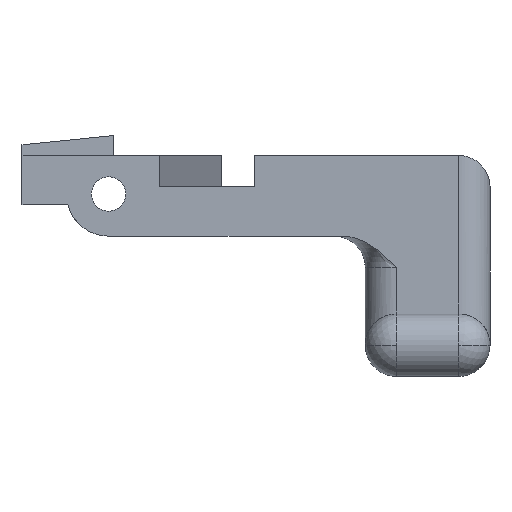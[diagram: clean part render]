
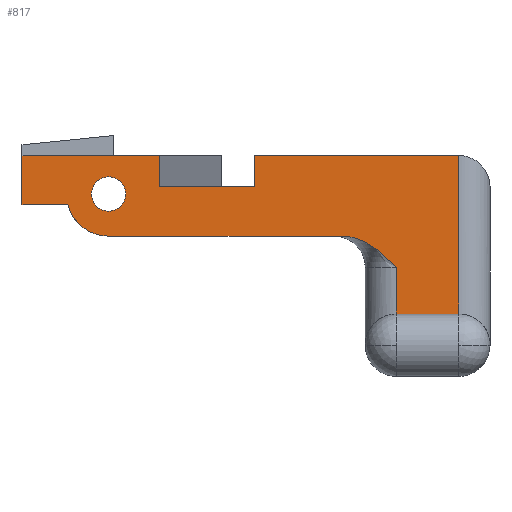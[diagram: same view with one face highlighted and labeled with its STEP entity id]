
A CAD part, front view. The second image highlights one B-rep face of the part: STEP entity #817.
In plain terms, the highlighted planar face has unit normal (0, -1, 0).
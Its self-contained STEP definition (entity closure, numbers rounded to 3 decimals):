
#35=FACE_BOUND('',#118,.T.);
#37=B_SPLINE_CURVE_WITH_KNOTS('',3,(#1264,#1265,#1266,#1267,#1268,#1269,
#1270,#1271,#1272,#1273),.UNSPECIFIED.,.F.,.F.,(4,2,2,2,4),(0.,0.118,
0.235,0.312,0.388),.UNSPECIFIED.);
#42=PLANE('',#882);
#69=FACE_OUTER_BOUND('',#117,.T.);
#117=EDGE_LOOP('',(#573,#574,#575,#576,#577,#578,#579,#580,#581,#582,#583,
#584,#585));
#118=EDGE_LOOP('',(#586));
#164=LINE('',#1234,#246);
#168=LINE('',#1242,#250);
#171=LINE('',#1248,#253);
#174=LINE('',#1254,#256);
#175=LINE('',#1256,#257);
#176=LINE('',#1258,#258);
#177=LINE('',#1262,#259);
#178=LINE('',#1275,#260);
#179=LINE('',#1277,#261);
#180=LINE('',#1279,#262);
#181=LINE('',#1280,#263);
#246=VECTOR('',#976,10.);
#250=VECTOR('',#982,10.);
#253=VECTOR('',#987,10.);
#256=VECTOR('',#992,10.);
#257=VECTOR('',#993,10.);
#258=VECTOR('',#994,10.);
#259=VECTOR('',#997,10.);
#260=VECTOR('',#998,10.);
#261=VECTOR('',#999,10.);
#262=VECTOR('',#1000,10.);
#263=VECTOR('',#1001,10.);
#327=CIRCLE('',#877,1.1);
#329=CIRCLE('',#883,2.7);
#359=VERTEX_POINT('',#1226);
#361=VERTEX_POINT('',#1232);
#362=VERTEX_POINT('',#1233);
#365=VERTEX_POINT('',#1241);
#367=VERTEX_POINT('',#1247);
#369=VERTEX_POINT('',#1253);
#370=VERTEX_POINT('',#1255);
#371=VERTEX_POINT('',#1257);
#372=VERTEX_POINT('',#1259);
#373=VERTEX_POINT('',#1261);
#374=VERTEX_POINT('',#1263);
#375=VERTEX_POINT('',#1274);
#376=VERTEX_POINT('',#1276);
#377=VERTEX_POINT('',#1278);
#435=EDGE_CURVE('',#359,#359,#327,.T.);
#438=EDGE_CURVE('',#361,#362,#164,.T.);
#442=EDGE_CURVE('',#365,#361,#168,.T.);
#445=EDGE_CURVE('',#367,#365,#171,.T.);
#448=EDGE_CURVE('',#369,#362,#174,.T.);
#449=EDGE_CURVE('',#370,#369,#175,.T.);
#450=EDGE_CURVE('',#371,#370,#176,.T.);
#451=EDGE_CURVE('',#372,#371,#329,.T.);
#452=EDGE_CURVE('',#372,#373,#177,.T.);
#453=EDGE_CURVE('',#374,#373,#37,.T.);
#454=EDGE_CURVE('',#375,#374,#178,.T.);
#455=EDGE_CURVE('',#375,#376,#179,.T.);
#456=EDGE_CURVE('',#377,#376,#180,.T.);
#457=EDGE_CURVE('',#367,#377,#181,.T.);
#573=ORIENTED_EDGE('',*,*,#445,.T.);
#574=ORIENTED_EDGE('',*,*,#442,.T.);
#575=ORIENTED_EDGE('',*,*,#438,.T.);
#576=ORIENTED_EDGE('',*,*,#448,.F.);
#577=ORIENTED_EDGE('',*,*,#449,.F.);
#578=ORIENTED_EDGE('',*,*,#450,.F.);
#579=ORIENTED_EDGE('',*,*,#451,.F.);
#580=ORIENTED_EDGE('',*,*,#452,.T.);
#581=ORIENTED_EDGE('',*,*,#453,.F.);
#582=ORIENTED_EDGE('',*,*,#454,.F.);
#583=ORIENTED_EDGE('',*,*,#455,.T.);
#584=ORIENTED_EDGE('',*,*,#456,.F.);
#585=ORIENTED_EDGE('',*,*,#457,.F.);
#586=ORIENTED_EDGE('',*,*,#435,.T.);
#817=ADVANCED_FACE('',(#69,#35),#42,.F.);
#877=AXIS2_PLACEMENT_3D('',#1227,#969,#970);
#882=AXIS2_PLACEMENT_3D('',#1252,#990,#991);
#883=AXIS2_PLACEMENT_3D('',#1260,#995,#996);
#969=DIRECTION('center_axis',(0.,1.,0.));
#970=DIRECTION('ref_axis',(1.,0.,0.));
#976=DIRECTION('',(0.,0.,1.));
#982=DIRECTION('',(-1.,0.,0.));
#987=DIRECTION('',(0.,0.,-1.));
#990=DIRECTION('center_axis',(0.,1.,0.));
#991=DIRECTION('ref_axis',(1.,0.,0.));
#992=DIRECTION('',(1.,0.,0.));
#993=DIRECTION('',(0.,0.,1.));
#994=DIRECTION('',(-1.,0.,0.));
#995=DIRECTION('center_axis',(0.,1.,0.));
#996=DIRECTION('ref_axis',(1.,0.,0.));
#997=DIRECTION('',(1.,0.,0.));
#998=DIRECTION('',(0.,0.,1.));
#999=DIRECTION('',(1.,0.,0.));
#1000=DIRECTION('',(0.,0.,-1.));
#1001=DIRECTION('',(1.,0.,0.));
#1226=CARTESIAN_POINT('',(-1.1,0.,0.));
#1227=CARTESIAN_POINT('Origin',(0.,0.,0.));
#1232=CARTESIAN_POINT('',(3.262,0.,0.466));
#1233=CARTESIAN_POINT('',(3.262,0.,2.466));
#1234=CARTESIAN_POINT('',(3.262,0.,0.996));
#1241=CARTESIAN_POINT('',(9.378,0.,0.466));
#1242=CARTESIAN_POINT('',(10.244,0.,0.466));
#1247=CARTESIAN_POINT('',(9.378,0.,2.466));
#1248=CARTESIAN_POINT('',(9.378,0.,2.996));
#1252=CARTESIAN_POINT('Origin',(9.451,0.,1.526));
#1253=CARTESIAN_POINT('',(-5.549,0.,2.466));
#1254=CARTESIAN_POINT('',(-5.549,0.,2.466));
#1255=CARTESIAN_POINT('',(-5.549,0.,-0.694));
#1256=CARTESIAN_POINT('',(-5.549,0.,-0.694));
#1257=CARTESIAN_POINT('',(-2.609,0.,-0.694));
#1258=CARTESIAN_POINT('',(24.451,0.,-0.694));
#1259=CARTESIAN_POINT('',(0.003,0.,-2.7));
#1260=CARTESIAN_POINT('Origin',(0.,0.,0.));
#1261=CARTESIAN_POINT('',(14.987,0.,-2.7));
#1262=CARTESIAN_POINT('',(-0.006,0.,-2.7));
#1263=CARTESIAN_POINT('',(18.451,0.,-4.7));
#1264=CARTESIAN_POINT('Ctrl Pts',(18.451,0.,-4.7));
#1265=CARTESIAN_POINT('Ctrl Pts',(18.174,0.,-4.423));
#1266=CARTESIAN_POINT('Ctrl Pts',(17.869,0.,-4.117));
#1267=CARTESIAN_POINT('Ctrl Pts',(17.221,0.,-3.558));
#1268=CARTESIAN_POINT('Ctrl Pts',(16.875,0.,-3.306));
#1269=CARTESIAN_POINT('Ctrl Pts',(16.306,0.,-3.));
#1270=CARTESIAN_POINT('Ctrl Pts',(16.049,0.,
-2.889));
#1271=CARTESIAN_POINT('Ctrl Pts',(15.517,0.,
-2.739));
#1272=CARTESIAN_POINT('Ctrl Pts',(15.241,0.,-2.7));
#1273=CARTESIAN_POINT('Ctrl Pts',(14.987,0.,-2.7));
#1274=CARTESIAN_POINT('',(18.451,0.,-7.694));
#1275=CARTESIAN_POINT('',(18.451,0.,-3.084));
#1276=CARTESIAN_POINT('',(22.451,0.,-7.694));
#1277=CARTESIAN_POINT('',(16.451,0.,-7.694));
#1278=CARTESIAN_POINT('',(22.451,0.,2.466));
#1279=CARTESIAN_POINT('',(22.451,0.,1.996));
#1280=CARTESIAN_POINT('',(-5.549,0.,2.466));
